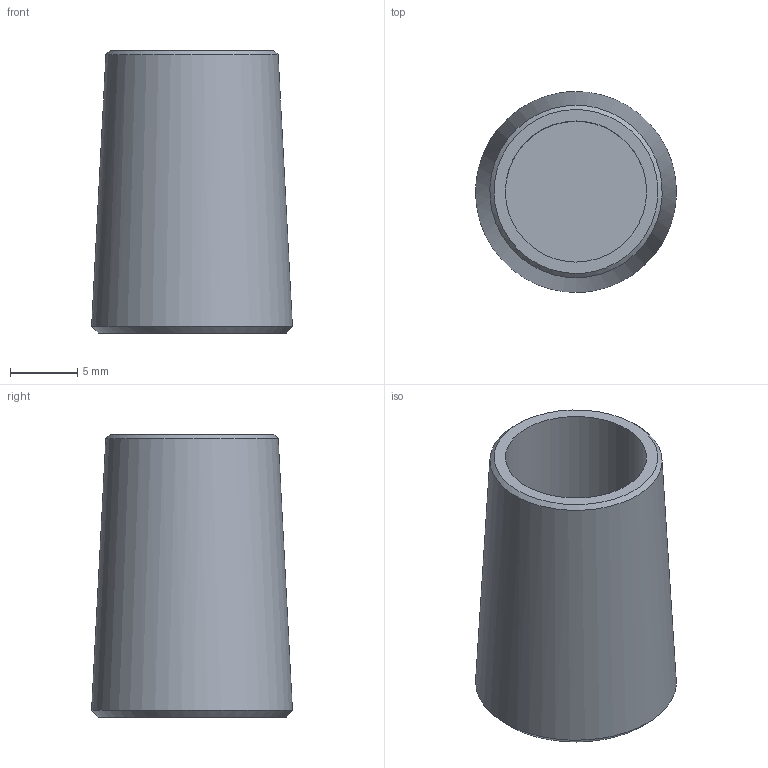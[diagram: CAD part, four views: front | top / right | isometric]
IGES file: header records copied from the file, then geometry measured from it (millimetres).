
Global section: file name: 520-010-KMU; native system: Autodesk Inventor 2016; preprocessor: unknown; author: BAYR; date: 20200618.122202; units: millimetre
Bounding box: 14.94 x 14.95 x 21 mm (x, y, z)
Volume: 1800.8 mm3; surface area: 1730.3 mm2
Topology: 1 solids, 1 shells, 7 faces, 14 edges, 10 vertices
Faces by surface type: bspline 7
